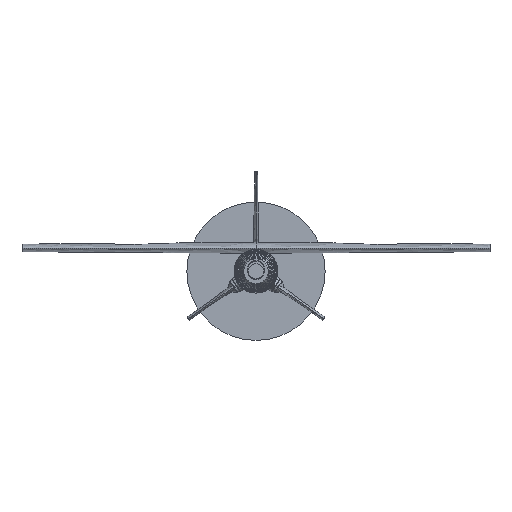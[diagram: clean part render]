
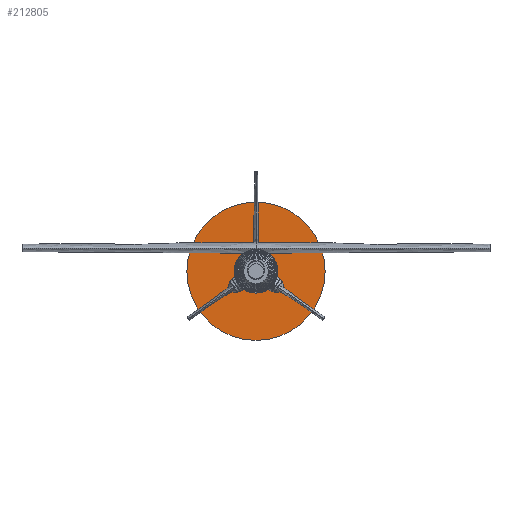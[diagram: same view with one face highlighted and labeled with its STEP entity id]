
A CAD part, left-side view. The second image highlights one B-rep face of the part: STEP entity #212805.
In plain terms, the highlighted planar face has unit normal (-1, 0, 0).
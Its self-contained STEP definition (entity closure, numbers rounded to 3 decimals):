
#212727 = CYLINDRICAL_SURFACE('',#212728,63.5);
#212728 = AXIS2_PLACEMENT_3D('',#212729,#212730,#212731);
#212729 = CARTESIAN_POINT('',(467.55,0.,0.));
#212730 = DIRECTION('',(1.,0.,0.));
#212731 = DIRECTION('',(-0.,0.,1.));
#212752 = VERTEX_POINT('',#212753);
#212753 = CARTESIAN_POINT('',(467.55,0.,63.5));
#212774 = EDGE_CURVE('',#212752,#212752,#212775,.T.);
#212775 = SURFACE_CURVE('',#212776,(#212781,#212788),.PCURVE_S1.);
#212776 = CIRCLE('',#212777,63.5);
#212777 = AXIS2_PLACEMENT_3D('',#212778,#212779,#212780);
#212778 = CARTESIAN_POINT('',(467.55,0.,0.));
#212779 = DIRECTION('',(1.,0.,0.));
#212780 = DIRECTION('',(-0.,0.,1.));
#212781 = PCURVE('',#212727,#212782);
#212782 = DEFINITIONAL_REPRESENTATION('',(#212783),#212787);
#212783 = LINE('',#212784,#212785);
#212784 = CARTESIAN_POINT('',(0.,0.));
#212785 = VECTOR('',#212786,1.);
#212786 = DIRECTION('',(1.,0.));
#212787 = ( GEOMETRIC_REPRESENTATION_CONTEXT(2) 
PARAMETRIC_REPRESENTATION_CONTEXT() REPRESENTATION_CONTEXT('2D SPACE',''
  ) );
#212788 = PCURVE('',#212789,#212794);
#212789 = PLANE('',#212790);
#212790 = AXIS2_PLACEMENT_3D('',#212791,#212792,#212793);
#212791 = CARTESIAN_POINT('',(467.55,0.,0.));
#212792 = DIRECTION('',(1.,0.,0.));
#212793 = DIRECTION('',(-0.,0.,1.));
#212794 = DEFINITIONAL_REPRESENTATION('',(#212795),#212799);
#212795 = CIRCLE('',#212796,63.5);
#212796 = AXIS2_PLACEMENT_2D('',#212797,#212798);
#212797 = CARTESIAN_POINT('',(0.,0.));
#212798 = DIRECTION('',(1.,0.));
#212799 = ( GEOMETRIC_REPRESENTATION_CONTEXT(2) 
PARAMETRIC_REPRESENTATION_CONTEXT() REPRESENTATION_CONTEXT('2D SPACE',''
  ) );
#212805 = ADVANCED_FACE('',(#212806),#212789,.F.);
#212806 = FACE_BOUND('',#212807,.T.);
#212807 = EDGE_LOOP('',(#212808));
#212808 = ORIENTED_EDGE('',*,*,#212774,.F.);
